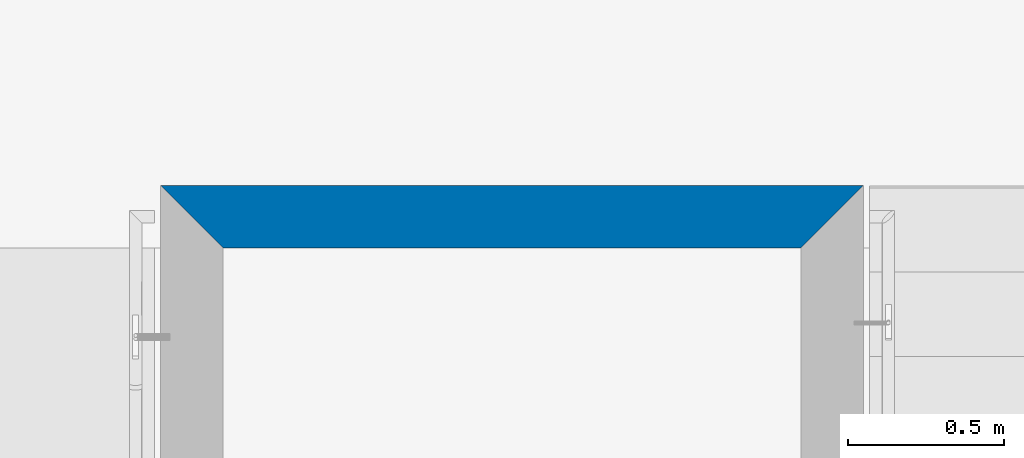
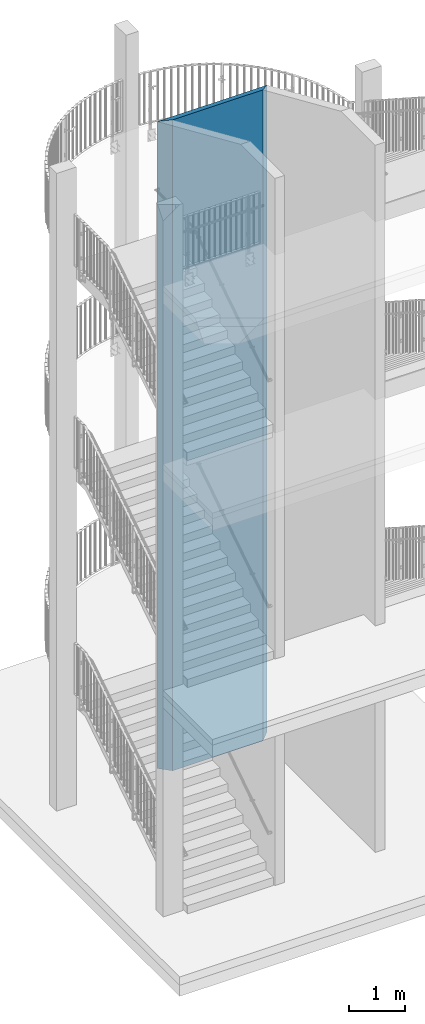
# One storey, part 127 of 296: 1 wall, 3 openings.
"""IFC2X3 building model written with IfcOpenShell, lengths in millimetres."""

from ifc_helpers import new_model, entity, si_unit, converted_unit, frame, origin, origin_with_axes, place, context, project, spatial, polyline, outline, extrude, material, layer, layer_set, element, save


model = new_model("IFC2X3")

# Units and contexts
model_context = context("Model", 3, precision=1e-09, world=origin_with_axes())
ifc_project = project(units=[si_unit("LENGTHUNIT", "METRE", prefix="MILLI"), si_unit("AREAUNIT", "SQUARE_METRE"), si_unit("VOLUMEUNIT", "CUBIC_METRE"), converted_unit("PLANEANGLEUNIT", "DEGREE", entity("IfcPlaneAngleMeasure", 0.01745329), si_unit("PLANEANGLEUNIT", "RADIAN"), dimensions=[0, 0, 0, 0, 0, 0, 0])], contexts=[model_context])

# Site, building, storey
site_placement = place(None, origin_with_axes())
site = spatial("IfcSite", under=ifc_project, at=site_placement, Name="TZD-S?d | Treppenhausgel?nder", CompositionType="ELEMENT")
building_placement = place(site_placement, origin_with_axes())
building = spatial("IfcBuilding", under=site, at=building_placement, Name="Struktur 1", CompositionType="ELEMENT")
storey_placement = place(building_placement, origin_with_axes())
storey = spatial("IfcBuildingStorey", under=building, at=storey_placement, Name="Default Storey", CompositionType="ELEMENT", Elevation=0.0)

# Wall, openings
ifc_material = material(Name="C25/30")
ifc_layer = layer(ifc_material, 200.0)
ifc_layer_set = layer_set([ifc_layer], Name="C25/30")
wall_placement = place(None, frame((2925.0, -200.0, 7650.0), z_axis=(0.0, 1.0, 0.0), x_axis=(-1.0, 0.0, 0.0)))
wall = element("IfcWall", 1, at=wall_placement, inside=storey, material=ifc_layer_set, Name="-", ObjectType="-", context=model_context, shape_type="SweptSolid", body=[
    extrude(outline(polyline([(-1125.0, -7650.0), (1125.0, -7650.0), (1125.0, 7650.0), (-1125.0, 7650.0), (-1125.0, -7650.0)])), origin_with_axes(), (0.0, 0.0, 1.0), 200.0),
])
opening_1_placement = place(wall_placement, frame((0.0, -7650.1, 100.0), z_axis=(0.0, 1.0, 0.0), x_axis=(0.0, 0.0, -1.0)))
element("IfcOpeningElement", 2, at=opening_1_placement, cuts=wall, ObjectType="Opening", context=model_context, shape_type="SweptSolid", body=[
    extrude(outline(polyline([(416.403148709, -608.595437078), (-467.24559856, -1492.244184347), (655.461512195, -1492.244184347), (416.403148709, -608.595437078)])), origin(), (0.0, 0.0, 1.0), 15300.2),
])
opening_2_placement = place(wall_placement, frame((0.0, -7650.1, 100.0), z_axis=(0.0, 1.0, 0.0), x_axis=(0.0, 0.0, -1.0)))
element("IfcOpeningElement", 3, at=opening_2_placement, cuts=wall, ObjectType="Opening", context=model_context, shape_type="SweptSolid", body=[
    extrude(outline(polyline([(421.238394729, 1453.39140662), (-428.392820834, 1453.39140662), (376.520152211, 648.478433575), (421.238394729, 1453.39140662)])), origin(), (0.0, 0.0, 1.0), 15300.2),
])
opening_3_placement = place(wall_placement, frame((-1125.1, 0.0, 100.0), z_axis=(1.0, 0.0, 0.0), x_axis=(0.0, 0.0, -1.0)))
element("IfcOpeningElement", 4, at=opening_3_placement, cuts=wall, ObjectType="Opening", context=model_context, shape_type="SweptSolid", body=[
    extrude(outline(polyline([(-1390.646552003, 5780.488411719), (4862.383565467, 8529.223319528), (3923.760200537, 10664.47475945), (-2329.269916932, 7915.739851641), (-1390.646552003, 5780.488411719)])), origin(), (0.0, 0.0, 1.0), 2250.2),
])

save(model, "model.ifc")
